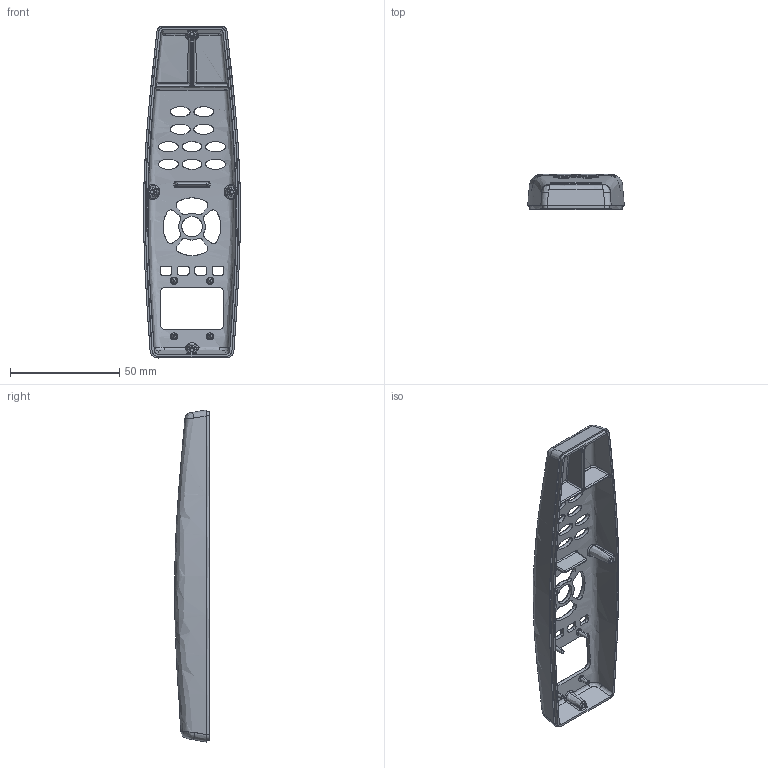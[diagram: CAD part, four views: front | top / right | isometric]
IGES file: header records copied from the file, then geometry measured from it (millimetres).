
Start section: SolidWorks IGES file using analytic representation for surfaces
Global section: file name: \\Demo1\c\SolidTrans Class Files\Remote Control.IGS; native system: SolidWorks 2006 by SolidWorks Corporation; preprocessor: SolidWorks 2006 by SolidWorks Corporation; author: ptran; date: 051214.095615; units: inch
Bounding box: 44.36 x 15.91 x 151.86 mm (x, y, z)
Surface area: 19551.4 mm2 (no closed solid volume)
Topology: 0 solids, 0 shells, 555 faces, 7328 edges, 7325 vertices
Faces by surface type: bspline 445, revolution 110
